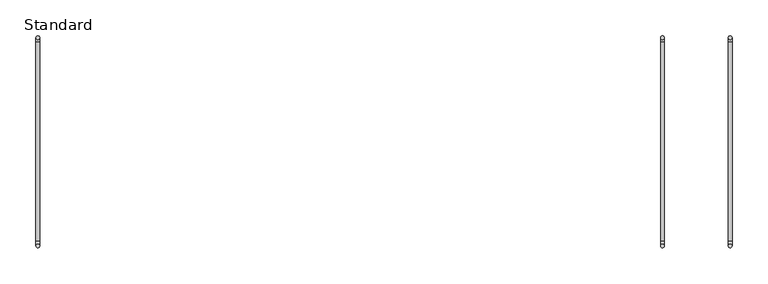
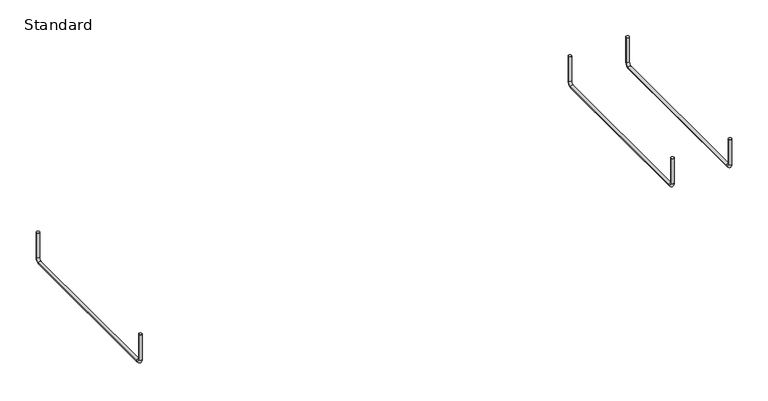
"""IFC4 building model written with IfcOpenShell, lengths in millimetres: cable carrier fitting geometry, CableTray_Atkore-Straight-Length : Standard."""

from ifc_helpers import new_model, si_unit, point, frame, origin, place, context, project, spatial, circle_curve, ellipse_curve, trimmed, source, transform, mapped, element, save
from ifc_brep_helpers import plane_surface, cylinder_surface, revolved_surface, advanced_brep


def standard_776865e7(model_context):
    return source(origin(), model_context, "Body", "AdvancedBrep", [
        advanced_brep(
        [(867.9890498, -144.88, 28.4757813), (873.0690498, -144.88, 28.4757813), (867.9890498, -144.88, -14.8133594), (873.0690498, -144.88, -14.8133594), (873.0690498, -138.8375781, -20.8557812), (867.9890498, -138.8375781, -20.8557812), (867.9890498, 138.53, -20.8557812), (873.0690498, 138.53, -20.8557812), (873.0690498, 144.88, -14.5057812), (867.9890498, 144.88, -14.5057812), (867.9890498, 144.88, 28.4757813), (873.0690498, 144.88, 28.4757813)],
        [
            (0, 1, circle_curve(frame((870.5290498, -144.88, 28.4757813), z_axis=(0.0, 0.0, 1.0), x_axis=(1.0, 0.0, 0.0)), 2.54)),
            (1, 0, circle_curve(frame((870.5290498, -144.88, 28.4757813), z_axis=(0.0, 0.0, 1.0), x_axis=(1.0, 0.0, 0.0)), 2.54)),
            (0, 2),
            (2, 3, circle_curve(frame((870.5290498, -144.88, -14.8133594), z_axis=(0.0, 0.0, 1.0), x_axis=(1.0, 0.0, 0.0)), 2.54)),
            (3, 1),
            (3, 2, circle_curve(frame((870.5290498, -144.88, -14.8133594), z_axis=(0.0, 0.0, 1.0), x_axis=(1.0, 0.0, 0.0)), 2.54)),
            (4, 3, circle_curve(frame((873.0690498, -138.8375781, -14.8133594), z_axis=(-1.0, 0.0, 0.0), x_axis=(0.0, -1.0, 0.0)), 6.0424219)),
            (2, 5, circle_curve(frame((867.9890498, -138.8375781, -14.8133594), z_axis=(1.0, 0.0, 0.0), x_axis=(0.0, -1.0, 0.0)), 6.0424219)),
            (5, 4, circle_curve(frame((870.5290498, -138.8375781, -20.8557812), z_axis=(0.0, -1.0, 0.0), x_axis=(1.0, 0.0, 0.0)), 2.54)),
            (4, 5, circle_curve(frame((870.5290498, -138.8375781, -20.8557812), z_axis=(0.0, -1.0, 0.0), x_axis=(1.0, 0.0, 0.0)), 2.54)),
            (5, 6),
            (6, 7, circle_curve(frame((870.5290498, 138.53, -20.8557812), z_axis=(0.0, -1.0, 0.0), x_axis=(1.0, 0.0, 0.0)), 2.54)),
            (7, 4),
            (7, 6, circle_curve(frame((870.5290498, 138.53, -20.8557812), z_axis=(0.0, -1.0, 0.0), x_axis=(1.0, 0.0, 0.0)), 2.54)),
            (8, 7, circle_curve(frame((873.0690498, 138.53, -14.5057812), z_axis=(-1.0, 0.0, 0.0), x_axis=(0.0, 0.0, -1.0)), 6.35)),
            (6, 9, circle_curve(frame((867.9890498, 138.53, -14.5057812), z_axis=(1.0, 0.0, 0.0), x_axis=(0.0, 0.0, -1.0)), 6.35)),
            (9, 8, circle_curve(frame((870.5290498, 144.88, -14.5057812), z_axis=(0.0, 0.0, -1.0), x_axis=(1.0, 0.0, 0.0)), 2.54)),
            (8, 9, circle_curve(frame((870.5290498, 144.88, -14.5057812), z_axis=(0.0, 0.0, -1.0), x_axis=(1.0, 0.0, 0.0)), 2.54)),
            (10, 11, circle_curve(frame((870.5290498, 144.88, 28.4757813), z_axis=(0.0, 0.0, 1.0), x_axis=(1.0, 0.0, 0.0)), 2.54)),
            (11, 10, circle_curve(frame((870.5290498, 144.88, 28.4757813), z_axis=(0.0, 0.0, 1.0), x_axis=(1.0, 0.0, 0.0)), 2.54)),
            (9, 10),
            (11, 8),
        ],
        [
            plane_surface(frame((870.5290498, -144.88, 28.4757813), z_axis=(0.0, 0.0, 1.0), x_axis=(1.0, 0.0, 0.0))),
            cylinder_surface(frame((870.5290498, -144.88, 28.4757813), z_axis=(0.0, 0.0, 1.0), x_axis=(1.0, 0.0, 0.0)), 2.54),
            revolved_surface(trimmed(ellipse_curve(frame((870.5290498, -144.88, -14.8133594), z_axis=(0.0, 0.0, 1.0), x_axis=(1.0, 0.0, 0.0)), 2.54, 2.54), [point((867.9890498, -144.88, -14.8133594))], [point((873.0690498, -144.88, -14.8133594))], True, "CARTESIAN"), (870.5290498, -138.8375781, -14.8133594), (1.0, 0.0, 0.0)),
            revolved_surface(trimmed(ellipse_curve(frame((870.5290498, -144.88, -14.8133594), z_axis=(0.0, 0.0, 1.0), x_axis=(1.0, 0.0, 0.0)), 2.54, 2.54), [point((873.0690498, -144.88, -14.8133594))], [point((867.9890498, -144.88, -14.8133594))], True, "CARTESIAN"), (870.5290498, -138.8375781, -14.8133594), (1.0, 0.0, 0.0)),
            cylinder_surface(frame((870.5290498, -138.8375781, -20.8557812), z_axis=(0.0, -1.0, 0.0), x_axis=(1.0, 0.0, 0.0)), 2.54),
            revolved_surface(trimmed(ellipse_curve(frame((870.5290498, 138.53, -20.8557812), z_axis=(0.0, -1.0, 0.0), x_axis=(1.0, 0.0, 0.0)), 2.54, 2.54), [point((867.9890498, 138.53, -20.8557812))], [point((873.0690498, 138.53, -20.8557812))], True, "CARTESIAN"), (870.5290498, 138.53, -14.5057812), (1.0, 0.0, 0.0)),
            revolved_surface(trimmed(ellipse_curve(frame((870.5290498, 138.53, -20.8557812), z_axis=(0.0, -1.0, 0.0), x_axis=(1.0, 0.0, 0.0)), 2.54, 2.54), [point((873.0690498, 138.53, -20.8557812))], [point((867.9890498, 138.53, -20.8557812))], True, "CARTESIAN"), (870.5290498, 138.53, -14.5057812), (1.0, 0.0, 0.0)),
            plane_surface(frame((870.5290498, 144.88, 28.4757813), z_axis=(0.0, 0.0, 1.0), x_axis=(1.0, 0.0, 0.0))),
            cylinder_surface(frame((870.5290498, 144.88, -14.5057812), z_axis=(0.0, 0.0, -1.0), x_axis=(1.0, 0.0, 0.0)), 2.54),
        ],
        [
            (0, [[1, 2]]),
            (1, [[-1, 3, 4, 5]]),
            (1, [[-2, -5, 6, -3]]),
            (2, [[7, -4, 8, 9]]),
            (3, [[-8, -6, -7, 10]]),
            (4, [[-9, 11, 12, 13]]),
            (4, [[-10, -13, 14, -11]]),
            (5, [[15, -12, 16, 17]]),
            (6, [[-16, -14, -15, 18]]),
            (7, [[19, 20]]),
            (8, [[-17, 21, -20, 22]]),
            (8, [[-18, -22, -19, -21]]),
        ],
    ),
        advanced_brep(
        [(0.0, -144.88, 28.4757813), (5.08, -144.88, 28.4757813), (0.0, -144.88, -14.8133594), (5.08, -144.88, -14.8133594), (5.08, -138.8375781, -20.8557812), (0.0, -138.8375781, -20.8557812), (0.0, 138.53, -20.8557812), (5.08, 138.53, -20.8557812), (5.08, 144.88, -14.5057812), (0.0, 144.88, -14.5057812), (0.0, 144.88, 28.4757813), (5.08, 144.88, 28.4757813)],
        [
            (0, 1, circle_curve(frame((2.54, -144.88, 28.4757813), z_axis=(0.0, 0.0, 1.0), x_axis=(1.0, 0.0, 0.0)), 2.54)),
            (1, 0, circle_curve(frame((2.54, -144.88, 28.4757813), z_axis=(0.0, 0.0, 1.0), x_axis=(1.0, 0.0, 0.0)), 2.54)),
            (0, 2),
            (2, 3, circle_curve(frame((2.54, -144.88, -14.8133594), z_axis=(0.0, 0.0, 1.0), x_axis=(1.0, 0.0, 0.0)), 2.54)),
            (3, 1),
            (3, 2, circle_curve(frame((2.54, -144.88, -14.8133594), z_axis=(0.0, 0.0, 1.0), x_axis=(1.0, 0.0, 0.0)), 2.54)),
            (4, 3, circle_curve(frame((5.08, -138.8375781, -14.8133594), z_axis=(-1.0, 0.0, 0.0), x_axis=(0.0, -1.0, 0.0)), 6.0424219)),
            (2, 5, circle_curve(frame((0.0, -138.8375781, -14.8133594), z_axis=(1.0, 0.0, 0.0), x_axis=(0.0, -1.0, 0.0)), 6.0424219)),
            (5, 4, circle_curve(frame((2.54, -138.8375781, -20.8557812), z_axis=(0.0, -1.0, 0.0), x_axis=(1.0, 0.0, 0.0)), 2.54)),
            (4, 5, circle_curve(frame((2.54, -138.8375781, -20.8557812), z_axis=(0.0, -1.0, 0.0), x_axis=(1.0, 0.0, 0.0)), 2.54)),
            (5, 6),
            (6, 7, circle_curve(frame((2.54, 138.53, -20.8557812), z_axis=(0.0, -1.0, 0.0), x_axis=(1.0, 0.0, 0.0)), 2.54)),
            (7, 4),
            (7, 6, circle_curve(frame((2.54, 138.53, -20.8557812), z_axis=(0.0, -1.0, 0.0), x_axis=(1.0, 0.0, 0.0)), 2.54)),
            (8, 7, circle_curve(frame((5.08, 138.53, -14.5057812), z_axis=(-1.0, 0.0, 0.0), x_axis=(0.0, 0.0, -1.0)), 6.35)),
            (6, 9, circle_curve(frame((0.0, 138.53, -14.5057812), z_axis=(1.0, 0.0, 0.0), x_axis=(0.0, 0.0, -1.0)), 6.35)),
            (9, 8, circle_curve(frame((2.54, 144.88, -14.5057812), z_axis=(0.0, 0.0, -1.0), x_axis=(1.0, 0.0, 0.0)), 2.54)),
            (8, 9, circle_curve(frame((2.54, 144.88, -14.5057812), z_axis=(0.0, 0.0, -1.0), x_axis=(1.0, 0.0, 0.0)), 2.54)),
            (10, 11, circle_curve(frame((2.54, 144.88, 28.4757813), z_axis=(0.0, 0.0, 1.0), x_axis=(1.0, 0.0, 0.0)), 2.54)),
            (11, 10, circle_curve(frame((2.54, 144.88, 28.4757813), z_axis=(0.0, 0.0, 1.0), x_axis=(1.0, 0.0, 0.0)), 2.54)),
            (9, 10),
            (11, 8),
        ],
        [
            plane_surface(frame((2.54, -144.88, 28.4757813), z_axis=(0.0, 0.0, 1.0), x_axis=(1.0, 0.0, 0.0))),
            cylinder_surface(frame((2.54, -144.88, 28.4757813), z_axis=(0.0, 0.0, 1.0), x_axis=(1.0, 0.0, 0.0)), 2.54),
            revolved_surface(trimmed(ellipse_curve(frame((2.54, -144.88, -14.8133594), z_axis=(0.0, 0.0, 1.0), x_axis=(1.0, 0.0, 0.0)), 2.54, 2.54), [point((0.0, -144.88, -14.8133594))], [point((5.08, -144.88, -14.8133594))], True, "CARTESIAN"), (2.54, -138.8375781, -14.8133594), (1.0, 0.0, 0.0)),
            revolved_surface(trimmed(ellipse_curve(frame((2.54, -144.88, -14.8133594), z_axis=(0.0, 0.0, 1.0), x_axis=(1.0, 0.0, 0.0)), 2.54, 2.54), [point((5.08, -144.88, -14.8133594))], [point((0.0, -144.88, -14.8133594))], True, "CARTESIAN"), (2.54, -138.8375781, -14.8133594), (1.0, 0.0, 0.0)),
            cylinder_surface(frame((2.54, -138.8375781, -20.8557812), z_axis=(0.0, -1.0, 0.0), x_axis=(1.0, 0.0, 0.0)), 2.54),
            revolved_surface(trimmed(ellipse_curve(frame((2.54, 138.53, -20.8557812), z_axis=(0.0, -1.0, 0.0), x_axis=(1.0, 0.0, 0.0)), 2.54, 2.54), [point((0.0, 138.53, -20.8557812))], [point((5.08, 138.53, -20.8557812))], True, "CARTESIAN"), (2.54, 138.53, -14.5057812), (1.0, 0.0, 0.0)),
            revolved_surface(trimmed(ellipse_curve(frame((2.54, 138.53, -20.8557812), z_axis=(0.0, -1.0, 0.0), x_axis=(1.0, 0.0, 0.0)), 2.54, 2.54), [point((5.08, 138.53, -20.8557812))], [point((0.0, 138.53, -20.8557812))], True, "CARTESIAN"), (2.54, 138.53, -14.5057812), (1.0, 0.0, 0.0)),
            plane_surface(frame((2.54, 144.88, 28.4757813), z_axis=(0.0, 0.0, 1.0), x_axis=(1.0, 0.0, 0.0))),
            cylinder_surface(frame((2.54, 144.88, -14.5057812), z_axis=(0.0, 0.0, -1.0), x_axis=(1.0, 0.0, 0.0)), 2.54),
        ],
        [
            (0, [[1, 2]]),
            (1, [[-1, 3, 4, 5]]),
            (1, [[-2, -5, 6, -3]]),
            (2, [[7, -4, 8, 9]]),
            (3, [[-8, -6, -7, 10]]),
            (4, [[-9, 11, 12, 13]]),
            (4, [[-10, -13, 14, -11]]),
            (5, [[15, -12, 16, 17]]),
            (6, [[-16, -14, -15, 18]]),
            (7, [[19, 20]]),
            (8, [[-17, 21, -20, 22]]),
            (8, [[-18, -22, -19, -21]]),
        ],
    ),
        advanced_brep(
        [(962.1744998, -144.88, 28.4757813), (967.2544998, -144.88, 28.4757813), (962.1744998, -144.88, -14.8133594), (967.2544998, -144.88, -14.8133594), (967.2544998, -138.8375781, -20.8557812), (962.1744998, -138.8375781, -20.8557812), (962.1744998, 138.53, -20.8557812), (967.2544998, 138.53, -20.8557812), (967.2544998, 144.88, -14.5057812), (962.1744998, 144.88, -14.5057812), (962.1744998, 144.88, 28.4757813), (967.2544998, 144.88, 28.4757813)],
        [
            (0, 1, circle_curve(frame((964.7144998, -144.88, 28.4757813), z_axis=(0.0, 0.0, 1.0), x_axis=(1.0, 0.0, 0.0)), 2.54)),
            (1, 0, circle_curve(frame((964.7144998, -144.88, 28.4757813), z_axis=(0.0, 0.0, 1.0), x_axis=(1.0, 0.0, 0.0)), 2.54)),
            (0, 2),
            (2, 3, circle_curve(frame((964.7144998, -144.88, -14.8133594), z_axis=(0.0, 0.0, 1.0), x_axis=(1.0, 0.0, 0.0)), 2.54)),
            (3, 1),
            (3, 2, circle_curve(frame((964.7144998, -144.88, -14.8133594), z_axis=(0.0, 0.0, 1.0), x_axis=(1.0, 0.0, 0.0)), 2.54)),
            (4, 3, circle_curve(frame((967.2544998, -138.8375781, -14.8133594), z_axis=(-1.0, 0.0, 0.0), x_axis=(0.0, -1.0, 0.0)), 6.0424219)),
            (2, 5, circle_curve(frame((962.1744998, -138.8375781, -14.8133594), z_axis=(1.0, 0.0, 0.0), x_axis=(0.0, -1.0, 0.0)), 6.0424219)),
            (5, 4, circle_curve(frame((964.7144998, -138.8375781, -20.8557812), z_axis=(0.0, -1.0, 0.0), x_axis=(1.0, 0.0, 0.0)), 2.54)),
            (4, 5, circle_curve(frame((964.7144998, -138.8375781, -20.8557812), z_axis=(0.0, -1.0, 0.0), x_axis=(1.0, 0.0, 0.0)), 2.54)),
            (5, 6),
            (6, 7, circle_curve(frame((964.7144998, 138.53, -20.8557812), z_axis=(0.0, -1.0, 0.0), x_axis=(1.0, 0.0, 0.0)), 2.54)),
            (7, 4),
            (7, 6, circle_curve(frame((964.7144998, 138.53, -20.8557812), z_axis=(0.0, -1.0, 0.0), x_axis=(1.0, 0.0, 0.0)), 2.54)),
            (8, 7, circle_curve(frame((967.2544998, 138.53, -14.5057812), z_axis=(-1.0, 0.0, 0.0), x_axis=(0.0, 0.0, -1.0)), 6.35)),
            (6, 9, circle_curve(frame((962.1744998, 138.53, -14.5057812), z_axis=(1.0, 0.0, 0.0), x_axis=(0.0, 0.0, -1.0)), 6.35)),
            (9, 8, circle_curve(frame((964.7144998, 144.88, -14.5057812), z_axis=(0.0, 0.0, -1.0), x_axis=(1.0, 0.0, 0.0)), 2.54)),
            (8, 9, circle_curve(frame((964.7144998, 144.88, -14.5057812), z_axis=(0.0, 0.0, -1.0), x_axis=(1.0, 0.0, 0.0)), 2.54)),
            (10, 11, circle_curve(frame((964.7144998, 144.88, 28.4757813), z_axis=(0.0, 0.0, 1.0), x_axis=(1.0, 0.0, 0.0)), 2.54)),
            (11, 10, circle_curve(frame((964.7144998, 144.88, 28.4757813), z_axis=(0.0, 0.0, 1.0), x_axis=(1.0, 0.0, 0.0)), 2.54)),
            (9, 10),
            (11, 8),
        ],
        [
            plane_surface(frame((964.7144998, -144.88, 28.4757813), z_axis=(0.0, 0.0, 1.0), x_axis=(1.0, 0.0, 0.0))),
            cylinder_surface(frame((964.7144998, -144.88, 28.4757813), z_axis=(0.0, 0.0, 1.0), x_axis=(1.0, 0.0, 0.0)), 2.54),
            revolved_surface(trimmed(ellipse_curve(frame((964.7144998, -144.88, -14.8133594), z_axis=(0.0, 0.0, 1.0), x_axis=(1.0, 0.0, 0.0)), 2.54, 2.54), [point((962.1744998, -144.88, -14.8133594))], [point((967.2544998, -144.88, -14.8133594))], True, "CARTESIAN"), (964.7144998, -138.8375781, -14.8133594), (1.0, 0.0, 0.0)),
            revolved_surface(trimmed(ellipse_curve(frame((964.7144998, -144.88, -14.8133594), z_axis=(0.0, 0.0, 1.0), x_axis=(1.0, 0.0, 0.0)), 2.54, 2.54), [point((967.2544998, -144.88, -14.8133594))], [point((962.1744998, -144.88, -14.8133594))], True, "CARTESIAN"), (964.7144998, -138.8375781, -14.8133594), (1.0, 0.0, 0.0)),
            cylinder_surface(frame((964.7144998, -138.8375781, -20.8557812), z_axis=(0.0, -1.0, 0.0), x_axis=(1.0, 0.0, 0.0)), 2.54),
            revolved_surface(trimmed(ellipse_curve(frame((964.7144998, 138.53, -20.8557812), z_axis=(0.0, -1.0, 0.0), x_axis=(1.0, 0.0, 0.0)), 2.54, 2.54), [point((962.1744998, 138.53, -20.8557812))], [point((967.2544998, 138.53, -20.8557812))], True, "CARTESIAN"), (964.7144998, 138.53, -14.5057812), (1.0, 0.0, 0.0)),
            revolved_surface(trimmed(ellipse_curve(frame((964.7144998, 138.53, -20.8557812), z_axis=(0.0, -1.0, 0.0), x_axis=(1.0, 0.0, 0.0)), 2.54, 2.54), [point((967.2544998, 138.53, -20.8557812))], [point((962.1744998, 138.53, -20.8557812))], True, "CARTESIAN"), (964.7144998, 138.53, -14.5057812), (1.0, 0.0, 0.0)),
            plane_surface(frame((964.7144998, 144.88, 28.4757813), z_axis=(0.0, 0.0, 1.0), x_axis=(1.0, 0.0, 0.0))),
            cylinder_surface(frame((964.7144998, 144.88, -14.5057812), z_axis=(0.0, 0.0, -1.0), x_axis=(1.0, 0.0, 0.0)), 2.54),
        ],
        [
            (0, [[1, 2]]),
            (1, [[-1, 3, 4, 5]]),
            (1, [[-2, -5, 6, -3]]),
            (2, [[7, -4, 8, 9]]),
            (3, [[-8, -6, -7, 10]]),
            (4, [[-9, 11, 12, 13]]),
            (4, [[-10, -13, 14, -11]]),
            (5, [[15, -12, 16, 17]]),
            (6, [[-16, -14, -15, 18]]),
            (7, [[19, 20]]),
            (8, [[-17, 21, -20, 22]]),
            (8, [[-18, -22, -19, -21]]),
        ],
    ),
    ])


if __name__ == "__main__":
    model = new_model("IFC4")
    model_context = context("Model", 3, world=origin())
    ifc_project = project(units=[si_unit("LENGTHUNIT", "METRE", prefix="MILLI")], contexts=[model_context])
    site = spatial("IfcSite", under=ifc_project)
    building = spatial("IfcBuilding", under=site)
    placement = place(None, origin())
    standard_shape = standard_776865e7(model_context)
    element("IfcCableCarrierFitting", 1, ObjectType="CableTray_Atkore-Straight-Length : Standard", at=placement, inside=building, context=model_context, shape_type="MappedRepresentation", body=[
        mapped(standard_shape, transform((0.0, 0.0, 0.0), x_axis=(1.0, 0.0, 0.0), y_axis=(0.0, 1.0, 0.0), z_axis=(0.0, 0.0, 1.0))),
    ])
    save(model, "model.ifc")
